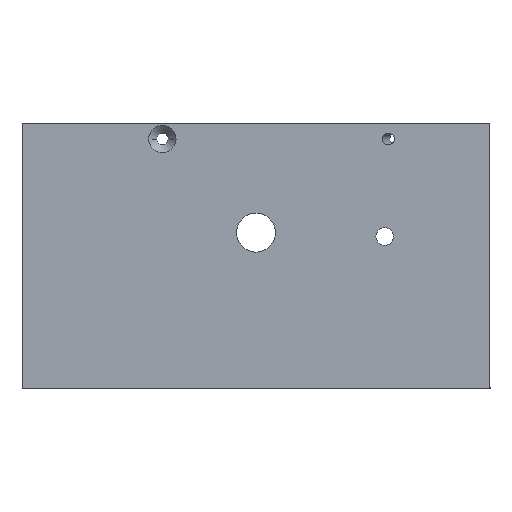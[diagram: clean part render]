
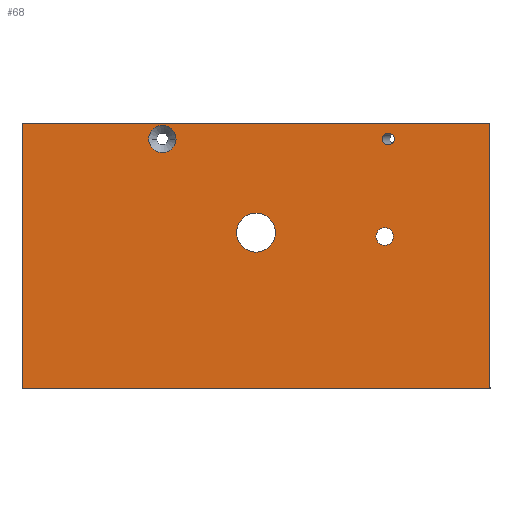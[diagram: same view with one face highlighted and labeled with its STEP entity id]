
A CAD part, front view. The second image highlights one B-rep face of the part: STEP entity #68.
In plain terms, the highlighted planar face has unit normal (0, -1, 0).
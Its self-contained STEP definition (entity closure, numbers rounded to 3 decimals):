
#68=ADVANCED_FACE('',(#109,#110,#111,#112,#113),#114,.T.);
#109=FACE_BOUND('',#154,.T.);
#110=FACE_OUTER_BOUND('',#155,.T.);
#111=FACE_BOUND('',#156,.T.);
#112=FACE_BOUND('',#157,.T.);
#113=FACE_BOUND('',#158,.T.);
#114=PLANE('',#159);
#154=EDGE_LOOP('',(#297,#298));
#155=EDGE_LOOP('',(#299,#300,#301,#302));
#156=EDGE_LOOP('',(#303,#304));
#157=EDGE_LOOP('',(#305,#306,#307));
#158=EDGE_LOOP('',(#308,#309));
#159=AXIS2_PLACEMENT_3D('',#310,#311,#312);
#297=ORIENTED_EDGE('',*,*,#337,.T.);
#298=ORIENTED_EDGE('',*,*,#338,.T.);
#299=ORIENTED_EDGE('',*,*,#362,.T.);
#300=ORIENTED_EDGE('',*,*,#359,.F.);
#301=ORIENTED_EDGE('',*,*,#356,.F.);
#302=ORIENTED_EDGE('',*,*,#361,.T.);
#303=ORIENTED_EDGE('',*,*,#321,.T.);
#304=ORIENTED_EDGE('',*,*,#352,.T.);
#305=ORIENTED_EDGE('',*,*,#353,.T.);
#306=ORIENTED_EDGE('',*,*,#317,.T.);
#307=ORIENTED_EDGE('',*,*,#354,.T.);
#308=ORIENTED_EDGE('',*,*,#328,.T.);
#309=ORIENTED_EDGE('',*,*,#350,.T.);
#310=CARTESIAN_POINT('',(-20.,0.,63.959));
#311=DIRECTION('',(0.0,-1.0,0.));
#312=DIRECTION('',(0.,0.,-1.0));
#317=EDGE_CURVE('',#364,#368,#370,.T.);
#321=EDGE_CURVE('',#372,#376,#378,.T.);
#328=EDGE_CURVE('',#387,#389,#391,.T.);
#337=EDGE_CURVE('',#402,#406,#408,.T.);
#338=EDGE_CURVE('',#406,#402,#409,.T.);
#350=EDGE_CURVE('',#389,#387,#427,.T.);
#352=EDGE_CURVE('',#376,#372,#429,.T.);
#353=EDGE_CURVE('',#430,#364,#431,.T.);
#354=EDGE_CURVE('',#368,#430,#432,.T.);
#356=EDGE_CURVE('',#433,#435,#436,.T.);
#359=EDGE_CURVE('',#435,#438,#440,.T.);
#361=EDGE_CURVE('',#433,#441,#443,.T.);
#362=EDGE_CURVE('',#441,#438,#444,.T.);
#364=VERTEX_POINT('',#446);
#368=VERTEX_POINT('',#451);
#370=ELLIPSE('',#454,1.527,1.5);
#372=VERTEX_POINT('',#456);
#376=VERTEX_POINT('',#461);
#378=CIRCLE('',#464,2.25);
#387=VERTEX_POINT('',#475);
#389=VERTEX_POINT('',#478);
#391=CIRCLE('',#481,5.);
#402=VERTEX_POINT('',#494);
#406=VERTEX_POINT('',#499);
#408=CIRCLE('',#502,3.5);
#409=CIRCLE('',#503,3.5);
#427=CIRCLE('',#525,5.);
#429=CIRCLE('',#527,2.25);
#430=VERTEX_POINT('',#528);
#431=ELLIPSE('',#529,1.527,1.5);
#432=ELLIPSE('',#530,1.527,1.5);
#433=VERTEX_POINT('',#531);
#435=VERTEX_POINT('',#534);
#436=LINE('',#535,#536);
#438=VERTEX_POINT('',#539);
#440=LINE('',#542,#543);
#441=VERTEX_POINT('',#544);
#443=LINE('',#547,#548);
#444=LINE('',#549,#550);
#446=CARTESIAN_POINT('',(33.755,0.,62.506));
#451=CARTESIAN_POINT('',(34.097,0.,65.488));
#454=AXIS2_PLACEMENT_3D('',#556,#557,#558);
#456=CARTESIAN_POINT('',(35.25,0.,39.));
#461=CARTESIAN_POINT('',(30.75,0.,39.));
#464=AXIS2_PLACEMENT_3D('',#564,#565,#566);
#475=CARTESIAN_POINT('',(0.,0.,45.));
#478=CARTESIAN_POINT('',(0.,0.,35.));
#481=AXIS2_PLACEMENT_3D('',#577,#578,#579);
#494=CARTESIAN_POINT('',(-27.5,0.,64.));
#499=CARTESIAN_POINT('',(-20.5,0.,64.));
#502=AXIS2_PLACEMENT_3D('',#596,#597,#598);
#503=AXIS2_PLACEMENT_3D('',#599,#600,#601);
#525=AXIS2_PLACEMENT_3D('',#627,#628,#629);
#527=AXIS2_PLACEMENT_3D('',#633,#634,#635);
#528=CARTESIAN_POINT('',(35.453,0.,63.997));
#529=AXIS2_PLACEMENT_3D('',#636,#637,#638);
#530=AXIS2_PLACEMENT_3D('',#639,#640,#641);
#531=CARTESIAN_POINT('',(60.,0.,0.));
#534=CARTESIAN_POINT('',(-60.,0.,0.));
#535=CARTESIAN_POINT('',(60.,0.,0.));
#536=VECTOR('',#643,1.0);
#539=CARTESIAN_POINT('',(-60.,0.,68.));
#542=CARTESIAN_POINT('',(-60.,0.,0.));
#543=VECTOR('',#646,1.0);
#544=CARTESIAN_POINT('',(60.,0.,68.));
#547=CARTESIAN_POINT('',(60.,0.,67.));
#548=VECTOR('',#648,1.2);
#549=CARTESIAN_POINT('',(-60.,0.,68.));
#550=VECTOR('',#649,1.0);
#556=CARTESIAN_POINT('',(33.926,0.,63.997));
#557=DIRECTION('',(0.,1.0,0.));
#558=DIRECTION('',(-1.0,0.,0.));
#564=CARTESIAN_POINT('',(33.,0.,39.));
#565=DIRECTION('',(0.,1.0,0.));
#566=DIRECTION('',(1.0,0.,0.));
#577=CARTESIAN_POINT('',(0.,0.,40.));
#578=DIRECTION('',(0.,1.0,0.));
#579=DIRECTION('',(0.,0.,1.0));
#596=CARTESIAN_POINT('',(-24.,0.,64.));
#597=DIRECTION('',(0.,1.0,0.));
#598=DIRECTION('',(-1.0,0.,0.));
#599=CARTESIAN_POINT('',(-24.,0.,64.));
#600=DIRECTION('',(0.,1.0,0.));
#601=DIRECTION('',(-1.0,0.,0.));
#627=CARTESIAN_POINT('',(0.,0.,40.));
#628=DIRECTION('',(0.,1.0,0.));
#629=DIRECTION('',(0.,0.,1.0));
#633=CARTESIAN_POINT('',(33.,0.,39.));
#634=DIRECTION('',(0.,1.0,0.));
#635=DIRECTION('',(1.0,0.,0.));
#636=CARTESIAN_POINT('',(33.926,0.,63.997));
#637=DIRECTION('',(0.,1.0,0.));
#638=DIRECTION('',(-1.0,0.,0.));
#639=CARTESIAN_POINT('',(33.926,0.,63.997));
#640=DIRECTION('',(0.,1.0,0.));
#641=DIRECTION('',(-1.0,0.,0.));
#643=DIRECTION('',(-1.0,0.,0.));
#646=DIRECTION('',(0.,0.,1.0));
#648=DIRECTION('',(0.,0.,1.0));
#649=DIRECTION('',(-1.0,0.,0.));
